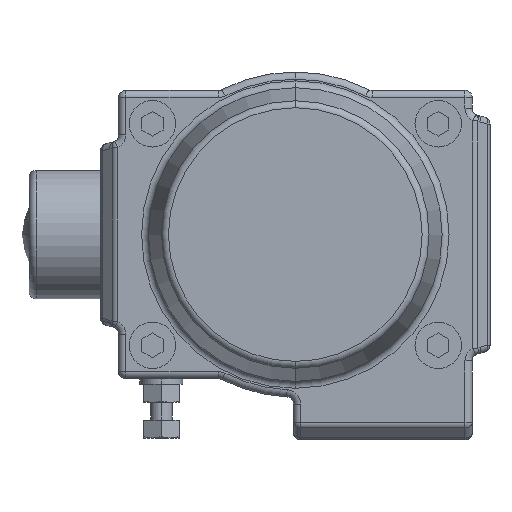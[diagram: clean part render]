
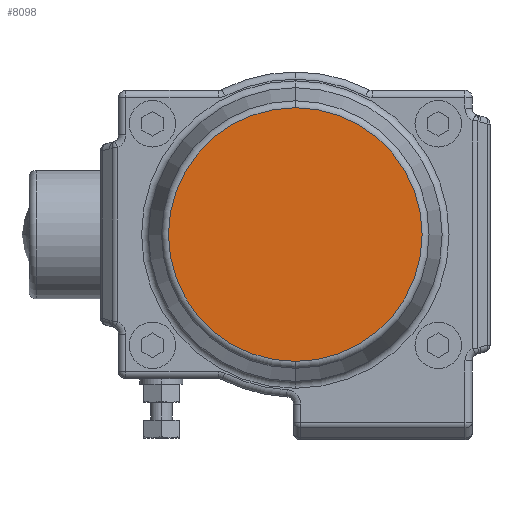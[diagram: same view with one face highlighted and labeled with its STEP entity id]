
A CAD part, left-side view. The second image highlights one B-rep face of the part: STEP entity #8098.
In plain terms, the highlighted planar face has unit normal (-1, 0, 0).
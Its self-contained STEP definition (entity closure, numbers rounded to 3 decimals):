
#313 = PLANE ( 'NONE',  #6460 ) ;
#350 = CARTESIAN_POINT ( 'NONE',  ( -104., 0., 0. ) ) ;
#977 = AXIS2_PLACEMENT_3D ( 'NONE', #350, #3193, #1709 ) ;
#1168 = EDGE_CURVE ( 'NONE', #12399, #11186, #9490, .T. ) ;
#1709 = DIRECTION ( 'NONE',  ( 0., 0., 1. ) ) ;
#2116 = DIRECTION ( 'NONE',  ( -1., 0., 0. ) ) ;
#3193 = DIRECTION ( 'NONE',  ( -1., 0., 0. ) ) ;
#4802 = CIRCLE ( 'NONE', #8574, 35.507 ) ;
#5957 = DIRECTION ( 'NONE',  ( -1., 0., 0. ) ) ;
#6043 = CARTESIAN_POINT ( 'NONE',  ( -104., 0., 0. ) ) ;
#6275 = DIRECTION ( 'NONE',  ( 0., 0., 1. ) ) ;
#6460 = AXIS2_PLACEMENT_3D ( 'NONE', #11215, #5957, #12582 ) ;
#8098 = ADVANCED_FACE ( 'NONE', ( #15957 ), #313, .T. ) ;
#8574 = AXIS2_PLACEMENT_3D ( 'NONE', #6043, #2116, #6275 ) ;
#8723 = ORIENTED_EDGE ( 'NONE', *, *, #15903, .T. ) ;
#9490 = CIRCLE ( 'NONE', #977, 35.507 ) ;
#11186 = VERTEX_POINT ( 'NONE', #12123 ) ;
#11215 = CARTESIAN_POINT ( 'NONE',  ( -104., 0., 0. ) ) ;
#12123 = CARTESIAN_POINT ( 'NONE',  ( -104., 0., -35.507 ) ) ;
#12399 = VERTEX_POINT ( 'NONE', #16027 ) ;
#12582 = DIRECTION ( 'NONE',  ( 0., 0., 1. ) ) ;
#15193 = ORIENTED_EDGE ( 'NONE', *, *, #1168, .T. ) ;
#15903 = EDGE_CURVE ( 'NONE', #11186, #12399, #4802, .T. ) ;
#15957 = FACE_OUTER_BOUND ( 'NONE', #16180, .T. ) ;
#16027 = CARTESIAN_POINT ( 'NONE',  ( -104., 0., 35.507 ) ) ;
#16180 = EDGE_LOOP ( 'NONE', ( #15193, #8723 ) ) ;
